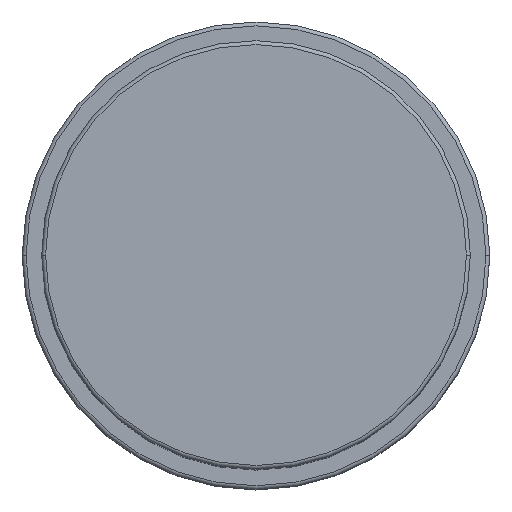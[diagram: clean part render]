
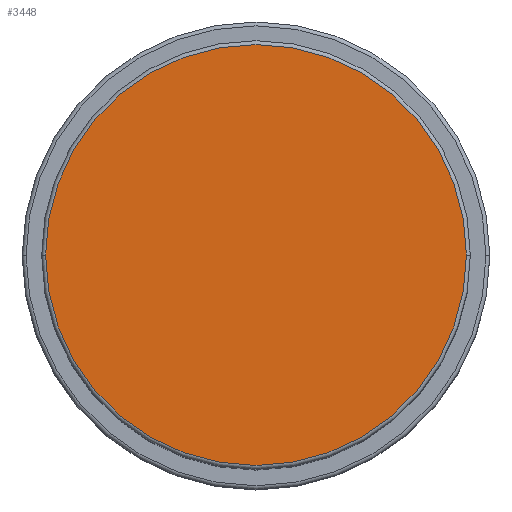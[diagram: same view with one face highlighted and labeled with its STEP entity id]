
A CAD part, top view. The second image highlights one B-rep face of the part: STEP entity #3448.
In plain terms, the highlighted planar face has unit normal (0, 0, 1).
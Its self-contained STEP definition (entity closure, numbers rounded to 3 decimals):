
#29 = DIRECTION ( 'NONE',  ( 0., 0., 1. ) ) ;
#458 = VERTEX_POINT ( 'NONE', #4475 ) ;
#843 = AXIS2_PLACEMENT_3D ( 'NONE', #3855, #4240, #4202 ) ;
#1402 = EDGE_CURVE ( 'NONE', #2176, #458, #3307, .T. ) ;
#1521 = CARTESIAN_POINT ( 'NONE',  ( 27., 0., 86. ) ) ;
#1551 = CARTESIAN_POINT ( 'NONE',  ( 0., 0., 86. ) ) ;
#1634 = CARTESIAN_POINT ( 'NONE',  ( 0., 0., 86. ) ) ;
#1836 = EDGE_LOOP ( 'NONE', ( #3763, #2396 ) ) ;
#2176 = VERTEX_POINT ( 'NONE', #1521 ) ;
#2396 = ORIENTED_EDGE ( 'NONE', *, *, #4864, .T. ) ;
#2444 = AXIS2_PLACEMENT_3D ( 'NONE', #1634, #3818, #3110 ) ;
#3110 = DIRECTION ( 'NONE',  ( 1., 0., 0. ) ) ;
#3307 = CIRCLE ( 'NONE', #2444, 27. ) ;
#3313 = CIRCLE ( 'NONE', #3407, 27. ) ;
#3407 = AXIS2_PLACEMENT_3D ( 'NONE', #1551, #29, #4524 ) ;
#3448 = ADVANCED_FACE ( 'NONE', ( #3741 ), #3453, .T. ) ;
#3453 = PLANE ( 'NONE',  #843 ) ;
#3741 = FACE_OUTER_BOUND ( 'NONE', #1836, .T. ) ;
#3763 = ORIENTED_EDGE ( 'NONE', *, *, #1402, .T. ) ;
#3818 = DIRECTION ( 'NONE',  ( 0., 0., 1. ) ) ;
#3855 = CARTESIAN_POINT ( 'NONE',  ( 0., 0., 86. ) ) ;
#4202 = DIRECTION ( 'NONE',  ( 1., 0., 0. ) ) ;
#4240 = DIRECTION ( 'NONE',  ( 0., 0., 1. ) ) ;
#4475 = CARTESIAN_POINT ( 'NONE',  ( -27., 0., 86. ) ) ;
#4524 = DIRECTION ( 'NONE',  ( 1., 0., 0. ) ) ;
#4864 = EDGE_CURVE ( 'NONE', #458, #2176, #3313, .T. ) ;
